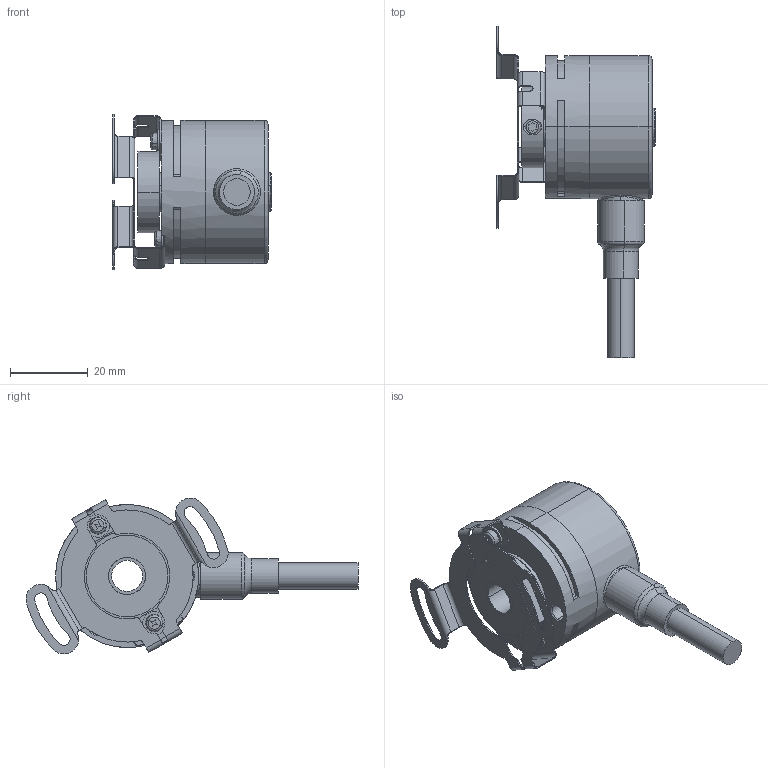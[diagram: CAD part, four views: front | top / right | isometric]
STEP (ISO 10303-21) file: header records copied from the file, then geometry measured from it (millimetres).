
FILE_DESCRIPTION (( 'STEP AP214' ), '1' );
FILE_NAME ('3720.56X1.XXXX.STEP', '2008-11-28T06:44:38', ( 'admin' ), ( 'Fritz Kübler GmbH' ), 'SwSTEP 2.0', 'SolidWorks 2008', '' );
FILE_SCHEMA (( 'AUTOMOTIVE_DESIGN' ));
Length unit declared in the file: millimetre
Products named in the file (1): 3720.56X1.XXXX
Bounding box: 40.7 x 85.4 x 40.1 mm (x, y, z)
Volume: 16070.4 mm3; surface area: 21395.1 mm2
Topology: 13 solids, 13 shells, 708 faces, 1744 edges, 1082 vertices
Faces by surface type: cylinder 320, plane 201, torus 94, cone 39, bspline 29, sphere 25
Entity records: 30493 total; most frequent: CARTESIAN_POINT 5649, DIRECTION 3765, ORIENTED_EDGE 3442, EDGE_CURVE 1721, AXIS2_PLACEMENT_3D 1538, VERTEX_POINT 1072, CIRCLE 858, EDGE_LOOP 773
